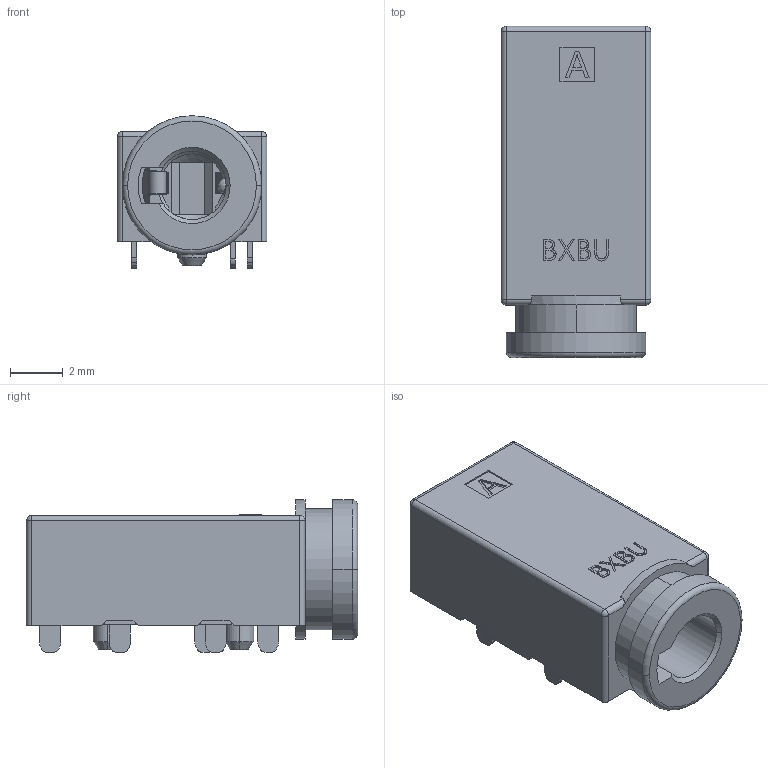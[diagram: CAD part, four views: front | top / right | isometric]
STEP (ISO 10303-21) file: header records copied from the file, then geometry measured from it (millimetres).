
FILE_DESCRIPTION (( 'STEP AP214' ), '1' );
FILE_NAME ('PJ25A037-06DF.STEP', '2026-05-15T01:41:03', ( '' ), ( '' ), 'SwSTEP 2.0', 'SolidWorks 2024', '' );
FILE_SCHEMA (( 'AUTOMOTIVE_DESIGN' ));
Length unit declared in the file: millimetre
Products named in the file (1): PJ25A037-06DF
Bounding box: 5.7 x 12.6 x 5.8 mm (x, y, z)
Volume: 205 mm3; surface area: 620.5 mm2
Topology: 3 solids, 3 shells, 877 faces, 2469 edges, 1586 vertices
Faces by surface type: plane 568, cylinder 178, bspline 108, cone 13, torus 6, sphere 4
Entity records: 33711 total; most frequent: CARTESIAN_POINT 11606, ORIENTED_EDGE 4922, DIRECTION 4113, EDGE_CURVE 2461, VECTOR 1829, LINE 1829, VERTEX_POINT 1586, AXIS2_PLACEMENT_3D 1142
